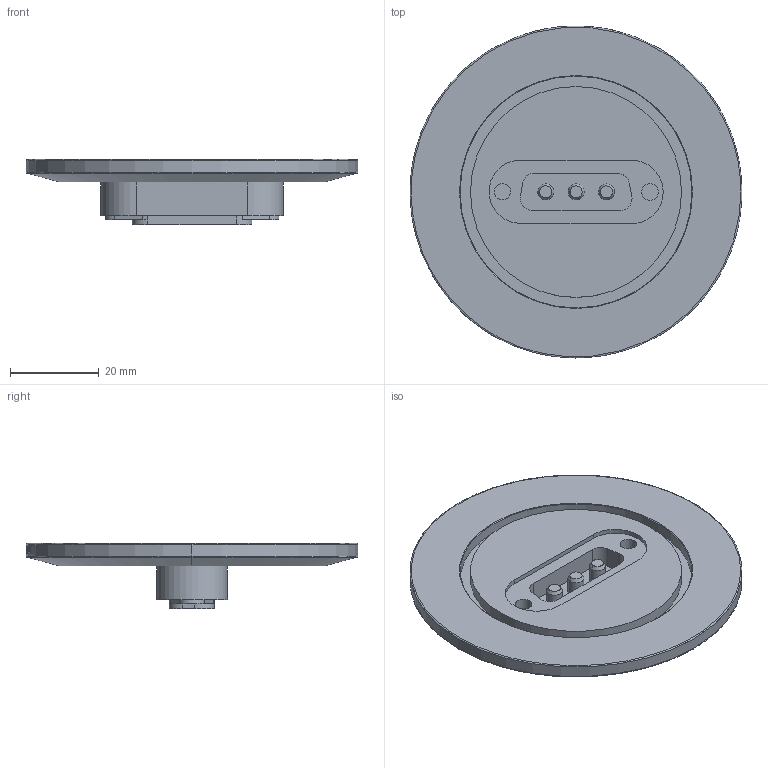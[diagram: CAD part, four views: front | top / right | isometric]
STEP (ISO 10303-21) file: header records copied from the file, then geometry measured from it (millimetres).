
FILE_DESCRIPTION (( 'STEP AP203' ), '1' );
FILE_NAME ('100941.stp', '2015-04-30T23:00:06', ( '' ), ( '' ), 'SwSTEP 2.0', 'SolidWorks 2012', '' );
FILE_SCHEMA (( 'CONFIG_CONTROL_DESIGN' ));
Length unit declared in the file: centimetre
Products named in the file (1): 100941
Bounding box: 74.93 x 74.93 x 14.71 mm (x, y, z)
Volume: 22346.8 mm3; surface area: 12551.4 mm2
Topology: 1 solids, 1 shells, 393 faces, 1017 edges, 671 vertices
Faces by surface type: plane 155, bspline 141, cylinder 81, cone 16
Entity records: 35270 total; most frequent: CARTESIAN_POINT 26635, ORIENTED_EDGE 2030, DIRECTION 1325, EDGE_CURVE 1015, VERTEX_POINT 671, AXIS2_PLACEMENT_3D 452, EDGE_LOOP 440, LINE 421
